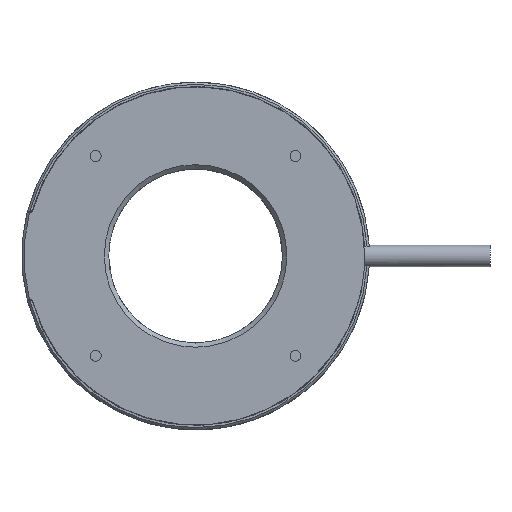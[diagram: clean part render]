
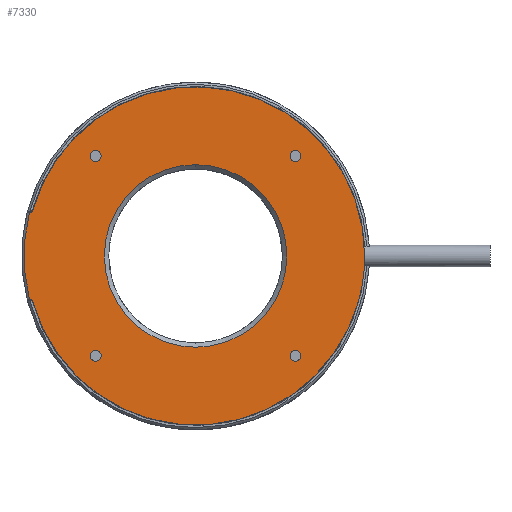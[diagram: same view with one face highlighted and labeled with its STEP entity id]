
A CAD part, top view. The second image highlights one B-rep face of the part: STEP entity #7330.
In plain terms, the highlighted planar face has unit normal (0, 0, 1).
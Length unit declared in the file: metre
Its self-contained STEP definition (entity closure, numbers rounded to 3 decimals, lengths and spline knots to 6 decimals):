
#1587=CARTESIAN_POINT('',(0.,0.,0.002));
#1588=DIRECTION('',(0.,0.,-1.));
#1589=DIRECTION('',(0.,-1.,0.));
#1590=AXIS2_PLACEMENT_3D('',#1587,#1588,#1589);
#1592=CARTESIAN_POINT('',(0.,0.,0.002));
#1593=DIRECTION('',(0.,0.,-1.));
#1594=DIRECTION('',(0.,1.,0.));
#1595=AXIS2_PLACEMENT_3D('',#1592,#1593,#1594);
#1597=CARTESIAN_POINT('',(0.022981,0.022981,0.002));
#1598=DIRECTION('',(0.,0.,-1.));
#1599=DIRECTION('',(0.,1.,0.));
#1600=AXIS2_PLACEMENT_3D('',#1597,#1598,#1599);
#1602=CARTESIAN_POINT('',(0.022981,0.022981,0.002));
#1603=DIRECTION('',(0.,0.,-1.));
#1604=DIRECTION('',(0.,-1.,0.));
#1605=AXIS2_PLACEMENT_3D('',#1602,#1603,#1604);
#1607=CARTESIAN_POINT('',(-0.022981,0.022981,0.002));
#1608=DIRECTION('',(0.,0.,-1.));
#1609=DIRECTION('',(-1.,0.,0.));
#1610=AXIS2_PLACEMENT_3D('',#1607,#1608,#1609);
#1612=CARTESIAN_POINT('',(-0.022981,0.022981,0.002));
#1613=DIRECTION('',(0.,0.,-1.));
#1614=DIRECTION('',(1.,0.,0.));
#1615=AXIS2_PLACEMENT_3D('',#1612,#1613,#1614);
#1617=CARTESIAN_POINT('',(-0.022981,-0.022981,0.002));
#1618=DIRECTION('',(0.,0.,-1.));
#1619=DIRECTION('',(0.,-1.,0.));
#1620=AXIS2_PLACEMENT_3D('',#1617,#1618,#1619);
#1622=CARTESIAN_POINT('',(-0.022981,-0.022981,0.002));
#1623=DIRECTION('',(0.,0.,-1.));
#1624=DIRECTION('',(0.,1.,0.));
#1625=AXIS2_PLACEMENT_3D('',#1622,#1623,#1624);
#1627=CARTESIAN_POINT('',(0.022981,-0.022981,0.002));
#1628=DIRECTION('',(0.,0.,-1.));
#1629=DIRECTION('',(1.,0.,0.));
#1630=AXIS2_PLACEMENT_3D('',#1627,#1628,#1629);
#1632=CARTESIAN_POINT('',(0.022981,-0.022981,0.002));
#1633=DIRECTION('',(0.,0.,-1.));
#1634=DIRECTION('',(-1.,0.,0.));
#1635=AXIS2_PLACEMENT_3D('',#1632,#1633,#1634);
#1637=CARTESIAN_POINT('',(-0.037975,0.0105,0.002));
#1638=DIRECTION('',(0.,0.,-1.));
#1639=DIRECTION('',(0.964,-0.266,0.));
#1640=AXIS2_PLACEMENT_3D('',#1637,#1638,#1639);
#1642=CARTESIAN_POINT('',(0.,0.,0.002));
#1643=DIRECTION('',(0.,0.,1.));
#1644=DIRECTION('',(1.,0.,0.));
#1645=AXIS2_PLACEMENT_3D('',#1642,#1643,#1644);
#1647=CARTESIAN_POINT('',(0.,0.,0.002));
#1648=DIRECTION('',(0.,0.,1.));
#1649=DIRECTION('',(0.964,-0.266,0.));
#1650=AXIS2_PLACEMENT_3D('',#1647,#1648,#1649);
#1652=CARTESIAN_POINT('',(0.,0.,0.002));
#1653=DIRECTION('',(0.,0.,1.));
#1654=DIRECTION('',(-0.964,-0.266,0.));
#1655=AXIS2_PLACEMENT_3D('',#1652,#1653,#1654);
#1657=CARTESIAN_POINT('',(-0.037975,-0.0105,0.002));
#1658=DIRECTION('',(0.,0.,-1.));
#1659=DIRECTION('',(0.,1.,0.));
#1660=AXIS2_PLACEMENT_3D('',#1657,#1658,#1659);
#1662=CARTESIAN_POINT('',(0.,0.,0.002));
#1663=DIRECTION('',(0.,0.,1.));
#1664=DIRECTION('',(-0.967,0.253,0.));
#1665=AXIS2_PLACEMENT_3D('',#1662,#1663,#1664);
#1747=DIRECTION('',(1.,0.,0.));
#1748=VECTOR('',#1747,0.000238);
#1749=CARTESIAN_POINT('',(-0.038213,0.01,0.002));
#1750=LINE('',#1749,#1748);
#3682=DIRECTION('',(-1.,0.,0.));
#3683=VECTOR('',#3682,0.000238);
#3684=CARTESIAN_POINT('',(-0.037975,-0.01,0.002));
#3685=LINE('',#3684,#3683);
#3955=CARTESIAN_POINT('',(-0.037493,-0.010367,0.002));
#3956=CARTESIAN_POINT('',(0.037493,-0.010367,0.002));
#3957=VERTEX_POINT('',#3955);
#3958=VERTEX_POINT('',#3956);
#3959=CARTESIAN_POINT('',(0.0389,0.,0.002));
#3960=VERTEX_POINT('',#3959);
#3961=CARTESIAN_POINT('',(-0.037493,0.010367,0.002));
#3962=VERTEX_POINT('',#3961);
#3963=CARTESIAN_POINT('',(-0.037975,-0.01,0.002));
#3964=VERTEX_POINT('',#3963);
#3965=CARTESIAN_POINT('',(-0.038213,-0.01,0.002));
#3966=VERTEX_POINT('',#3965);
#3967=CARTESIAN_POINT('',(-0.038213,0.01,0.002));
#3968=VERTEX_POINT('',#3967);
#3969=CARTESIAN_POINT('',(-0.037975,0.01,0.002));
#3970=VERTEX_POINT('',#3969);
#3971=CARTESIAN_POINT('',(0.021731,-0.022981,0.002));
#3972=CARTESIAN_POINT('',(0.024231,-0.022981,0.002));
#3973=VERTEX_POINT('',#3971);
#3974=VERTEX_POINT('',#3972);
#3975=CARTESIAN_POINT('',(-0.022981,-0.021731,0.002));
#3976=CARTESIAN_POINT('',(-0.022981,-0.024231,0.002));
#3977=VERTEX_POINT('',#3975);
#3978=VERTEX_POINT('',#3976);
#3979=CARTESIAN_POINT('',(-0.021731,0.022981,0.002));
#3980=CARTESIAN_POINT('',(-0.024231,0.022981,0.002));
#3981=VERTEX_POINT('',#3979);
#3982=VERTEX_POINT('',#3980);
#3983=CARTESIAN_POINT('',(0.022981,0.021731,0.002));
#3984=CARTESIAN_POINT('',(0.022981,0.024231,0.002));
#3985=VERTEX_POINT('',#3983);
#3986=VERTEX_POINT('',#3984);
#3987=CARTESIAN_POINT('',(0.,0.021,0.002));
#3988=CARTESIAN_POINT('',(0.,-0.021,0.002));
#3989=VERTEX_POINT('',#3987);
#3990=VERTEX_POINT('',#3988);
#7279=CARTESIAN_POINT('',(0.,0.,0.002));
#7280=DIRECTION('',(0.,0.,-1.));
#7281=DIRECTION('',(0.,1.,0.));
#7282=AXIS2_PLACEMENT_3D('',#7279,#7280,#7281);
#7283=PLANE('',#7282);
#7285=ORIENTED_EDGE('',*,*,#7284,.F.);
#7287=ORIENTED_EDGE('',*,*,#7286,.F.);
#7289=ORIENTED_EDGE('',*,*,#7288,.F.);
#7291=ORIENTED_EDGE('',*,*,#7290,.F.);
#7293=ORIENTED_EDGE('',*,*,#7292,.F.);
#7295=ORIENTED_EDGE('',*,*,#7294,.T.);
#7297=ORIENTED_EDGE('',*,*,#7296,.F.);
#7299=ORIENTED_EDGE('',*,*,#7298,.T.);
#7300=EDGE_LOOP('',(#7285,#7287,#7289,#7291,#7293,#7295,#7297,#7299));
#7301=FACE_OUTER_BOUND('',#7300,.F.);
#7303=ORIENTED_EDGE('',*,*,#7302,.F.);
#7305=ORIENTED_EDGE('',*,*,#7304,.F.);
#7306=EDGE_LOOP('',(#7303,#7305));
#7307=FACE_BOUND('',#7306,.F.);
#7309=ORIENTED_EDGE('',*,*,#7308,.F.);
#7311=ORIENTED_EDGE('',*,*,#7310,.F.);
#7312=EDGE_LOOP('',(#7309,#7311));
#7313=FACE_BOUND('',#7312,.F.);
#7315=ORIENTED_EDGE('',*,*,#7314,.F.);
#7317=ORIENTED_EDGE('',*,*,#7316,.F.);
#7318=EDGE_LOOP('',(#7315,#7317));
#7319=FACE_BOUND('',#7318,.F.);
#7321=ORIENTED_EDGE('',*,*,#7320,.F.);
#7323=ORIENTED_EDGE('',*,*,#7322,.F.);
#7324=EDGE_LOOP('',(#7321,#7323));
#7325=FACE_BOUND('',#7324,.F.);
#7326=ORIENTED_EDGE('',*,*,#7258,.F.);
#7327=ORIENTED_EDGE('',*,*,#7272,.F.);
#7328=EDGE_LOOP('',(#7326,#7327));
#7329=FACE_BOUND('',#7328,.F.);
#7330=ADVANCED_FACE('',(#7301,#7307,#7313,#7319,#7325,#7329),#7283,.F.);
#1591=CIRCLE('',#1590,0.021);
#1596=CIRCLE('',#1595,0.021);
#1601=CIRCLE('',#1600,0.00125);
#1606=CIRCLE('',#1605,0.00125);
#1611=CIRCLE('',#1610,0.00125);
#1616=CIRCLE('',#1615,0.00125);
#1621=CIRCLE('',#1620,0.00125);
#1626=CIRCLE('',#1625,0.00125);
#1631=CIRCLE('',#1630,0.00125);
#1636=CIRCLE('',#1635,0.00125);
#1641=CIRCLE('',#1640,0.0005);
#1646=CIRCLE('',#1645,0.0389);
#1651=CIRCLE('',#1650,0.0389);
#1656=CIRCLE('',#1655,0.0389);
#1661=CIRCLE('',#1660,0.0005);
#1666=CIRCLE('',#1665,0.0395);
#7258=EDGE_CURVE('',#3990,#3989,#1591,.T.);
#7272=EDGE_CURVE('',#3989,#3990,#1596,.T.);
#7284=EDGE_CURVE('',#3962,#3970,#1641,.T.);
#7286=EDGE_CURVE('',#3960,#3962,#1646,.T.);
#7288=EDGE_CURVE('',#3958,#3960,#1651,.T.);
#7290=EDGE_CURVE('',#3957,#3958,#1656,.T.);
#7292=EDGE_CURVE('',#3964,#3957,#1661,.T.);
#7294=EDGE_CURVE('',#3964,#3966,#3685,.T.);
#7296=EDGE_CURVE('',#3968,#3966,#1666,.T.);
#7298=EDGE_CURVE('',#3968,#3970,#1750,.T.);
#7302=EDGE_CURVE('',#3986,#3985,#1601,.T.);
#7304=EDGE_CURVE('',#3985,#3986,#1606,.T.);
#7308=EDGE_CURVE('',#3982,#3981,#1611,.T.);
#7310=EDGE_CURVE('',#3981,#3982,#1616,.T.);
#7314=EDGE_CURVE('',#3978,#3977,#1621,.T.);
#7316=EDGE_CURVE('',#3977,#3978,#1626,.T.);
#7320=EDGE_CURVE('',#3974,#3973,#1631,.T.);
#7322=EDGE_CURVE('',#3973,#3974,#1636,.T.);
